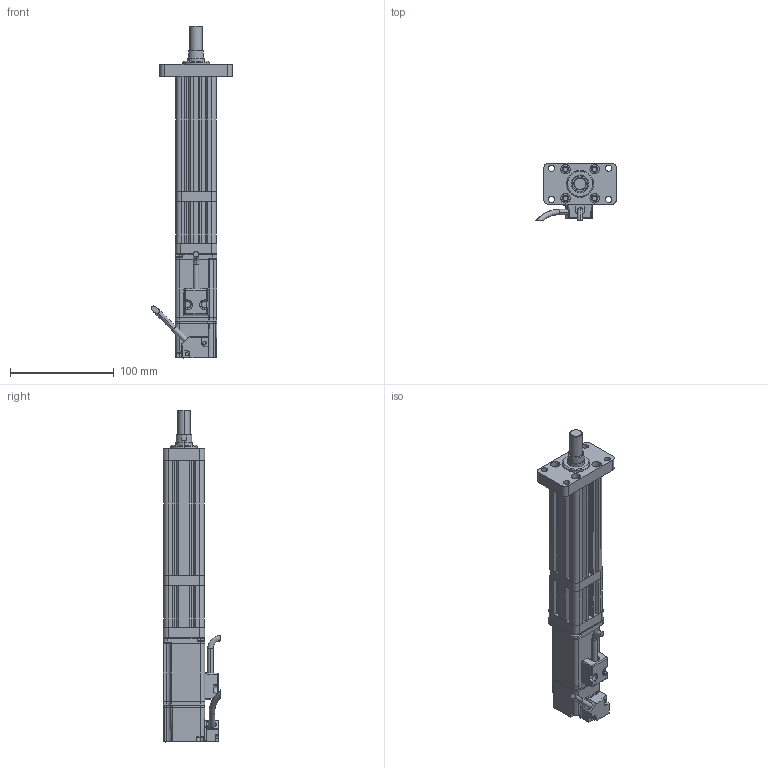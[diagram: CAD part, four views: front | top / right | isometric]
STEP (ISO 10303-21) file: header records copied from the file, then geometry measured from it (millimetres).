
FILE_DESCRIPTION (( 'STEP AP214' ), '1' );
FILE_NAME ('039-S50-D02-A-M3-C1-2.STEP', '2021-03-02T05:24:39', ( '' ), ( '' ), 'SwSTEP 2.0', 'SolidWorks 2018', '' );
FILE_SCHEMA (( 'AUTOMOTIVE_DESIGN' ));
Length unit declared in the file: millimetre
Products named in the file (8): CMC039-GT; CMC039-FL1; CMC039-AZB; CMC039-DT; 039-S50-D02-A-M3-C1-2; CMC039-DJZ; ECMA-CX0401ES-40框號系列機種-100W低慣量系列; CMC039-ZLLJB
Assembly tree (7 placements, depth 2):
  039-S50-D02-A-M3-C1-2
    CMC039-GT
    CMC039-DT
    CMC039-ZLLJB
    CMC039-DJZ
    ECMA-CX0401ES-40框號系列機種-100W低慣量系列
    CMC039-AZB
    CMC039-FL1
Bounding box: 77.83 x 55.39 x 319.6 mm (x, y, z)
Volume: 362889.1 mm3; surface area: 103392 mm2
Topology: 7 solids, 15 shells, 716 faces, 1884 edges, 1183 vertices
Faces by surface type: cylinder 298, plane 293, bspline 84, cone 41
Entity records: 28264 total; most frequent: CARTESIAN_POINT 11275, ORIENTED_EDGE 3702, DIRECTION 3045, EDGE_CURVE 1851, VERTEX_POINT 1183, AXIS2_PLACEMENT_3D 1040, VECTOR 965, LINE 965
